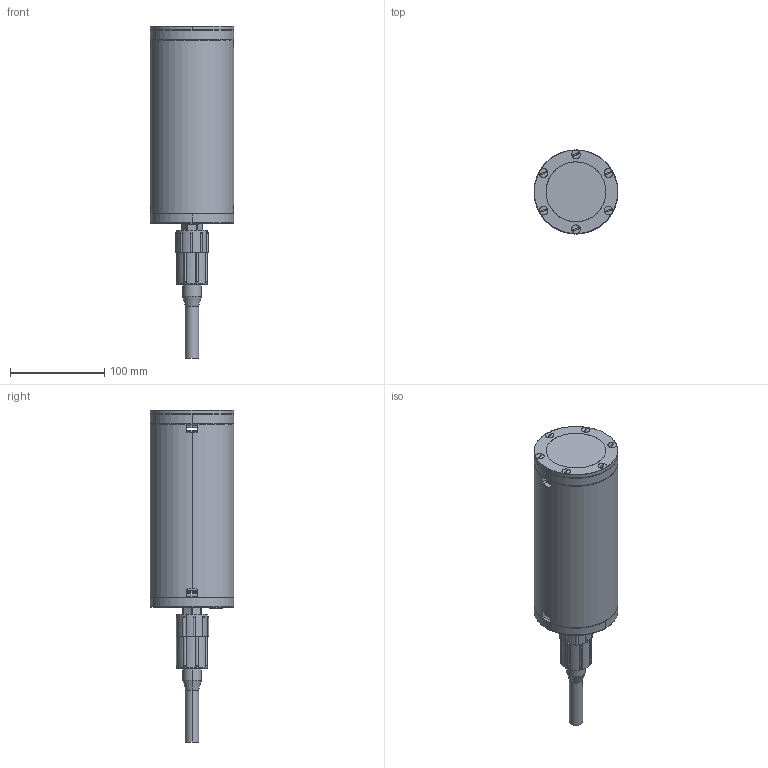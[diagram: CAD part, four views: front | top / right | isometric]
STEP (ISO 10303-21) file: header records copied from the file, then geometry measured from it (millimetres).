
FILE_DESCRIPTION (( 'STEP AP203' ), '1' );
FILE_NAME ('C1-MarineSitu-2025.STEP', '2025-06-10T22:42:51', ( '' ), ( '' ), 'SwSTEP 2.0', 'SolidWorks 2020', '' );
FILE_SCHEMA (( 'CONFIG_CONTROL_DESIGN' ));
Length unit declared in the file: metre
Products named in the file (1): C1-MarineSitu-2025
Bounding box: 88.9 x 88.9 x 351.82 mm (x, y, z)
Surface area: 97896.5 mm2 (no closed solid volume)
Topology: 0 solids, 25 shells, 368 faces, 1252 edges, 880 vertices
Faces by surface type: plane 143, cylinder 100, bspline 80, cone 34, torus 11
Entity records: 18078 total; most frequent: CARTESIAN_POINT 7940, DIRECTION 1946, ORIENTED_EDGE 1930, EDGE_CURVE 1232, VERTEX_POINT 880, AXIS2_PLACEMENT_3D 686, LINE 574, VECTOR 574
